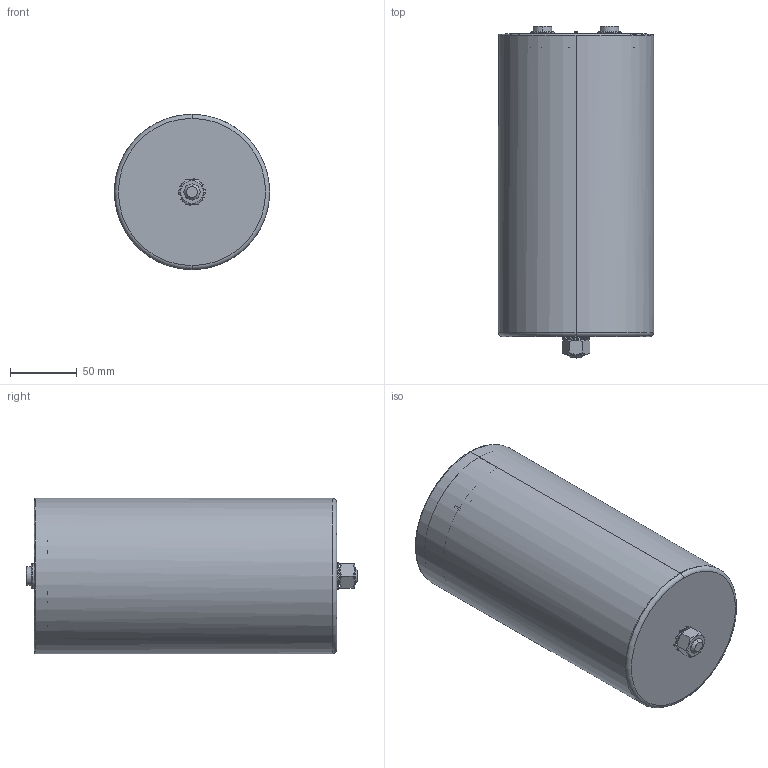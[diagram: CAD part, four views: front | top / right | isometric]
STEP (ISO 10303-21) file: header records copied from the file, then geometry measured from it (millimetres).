
FILE_DESCRIPTION (( 'STEP AP214' ), '1' );
FILE_NAME ('B25690 Series ¦µ116 Hc226 Ht232.STEP', '2025-01-14T07:52:02', ( '' ), ( '' ), 'SwSTEP 2.0', 'SolidWorks 2019', '' );
FILE_SCHEMA (( 'AUTOMOTIVE_DESIGN' ));
Length unit declared in the file: millimetre
Products named in the file (1): B25690 Series 朴116 Hc226 Ht232
Bounding box: 116 x 248 x 116 mm (x, y, z)
Volume: 168924.1 mm3; surface area: 224807.8 mm2
Topology: 1 solids, 2 shells, 371 faces, 1009 edges, 645 vertices
Faces by surface type: plane 137, cylinder 124, cone 50, bspline 40, torus 16, sphere 4
Entity records: 12572 total; most frequent: CARTESIAN_POINT 3598, ORIENTED_EDGE 2002, DIRECTION 1734, EDGE_CURVE 1001, AXIS2_PLACEMENT_3D 647, VERTEX_POINT 645, VECTOR 440, LINE 440
